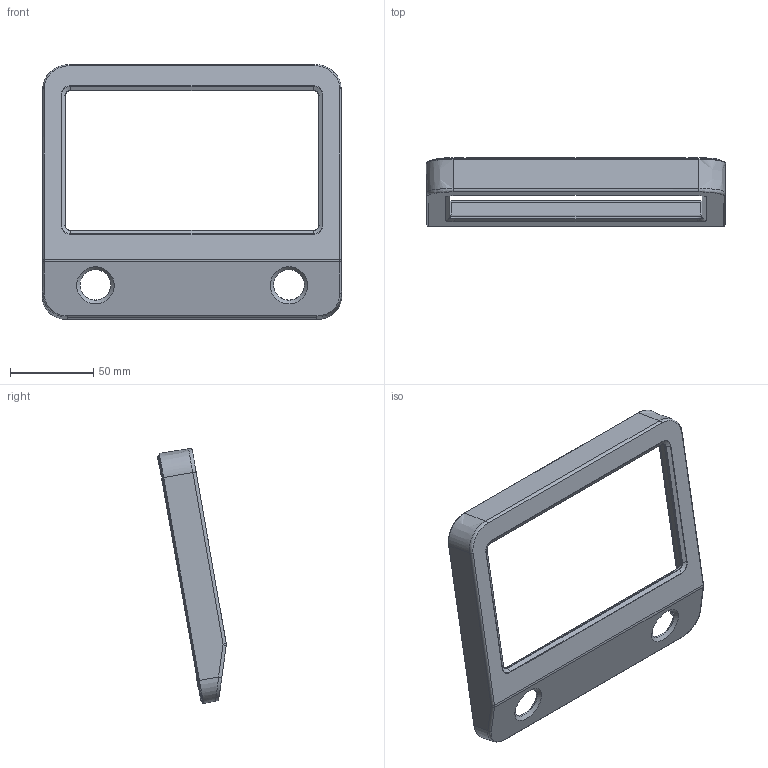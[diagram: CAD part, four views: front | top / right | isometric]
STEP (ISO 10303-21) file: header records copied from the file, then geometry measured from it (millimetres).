
FILE_DESCRIPTION(/* description */ ('STEP AP242 Edition 2','CAx-IF Rec.Pracs.---Representation and Presentation of Product Manufacturing Information (PMI)---4.0---2014-10-13','CAx-IF Rec.Pracs.---3D Tessellated Geometry---0.4---2014-09-14','2;1','CAx-IF Rec.Pracs.---User Defined Attributes---1.5---2016-08-15'),/* implementation_level */ '2;1');
FILE_NAME(/* name */ 'Assy_ForMFG - KD-H-101X_HeadFront',/* time_stamp */ '2026-05-15T19:56:44Z',/* author */ (''),/* organization */ (''),/* preprocessor_version */ 'ST-DEVELOPER v20',/* originating_system */ 'ONSHAPE BY PTC INC, 1.215',/* authorisation */ ' ');
FILE_SCHEMA (('AP242_MANAGED_MODEL_BASED_3D_ENGINEERING_MIM_LF { 1 0 10303 442 3 1 4 }'));
Length unit declared in the file: metre
Products named in the file (1): KD-H-101X_HeadFront
Bounding box: 179.55 x 41.17 x 152.79 mm (x, y, z)
Surface area: 51349.6 mm2 (no closed solid volume)
Topology: 0 solids, 1 shells, 179 faces, 461 edges, 291 vertices
Faces by surface type: plane 84, cylinder 41, bspline 36, cone 10, torus 8
Full cylindrical faces by diameter (mm): 2.5 x4, 6 x4, 18.5 x2
Entity records: 7597 total; most frequent: CARTESIAN_POINT 3569, ORIENTED_EDGE 862, DIRECTION 741, EDGE_CURVE 431, VERTEX_POINT 278, AXIS2_PLACEMENT_3D 258, LINE 225, VECTOR 225
